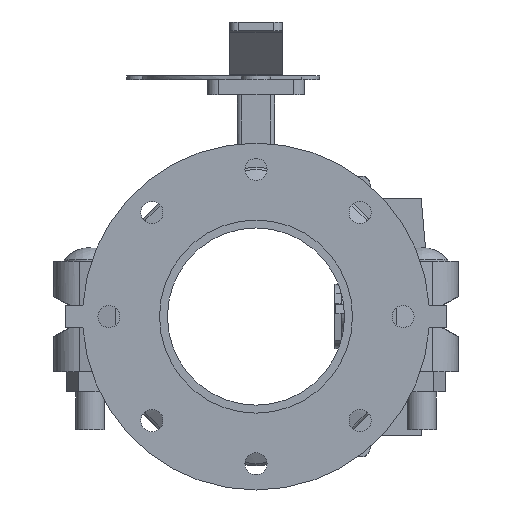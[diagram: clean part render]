
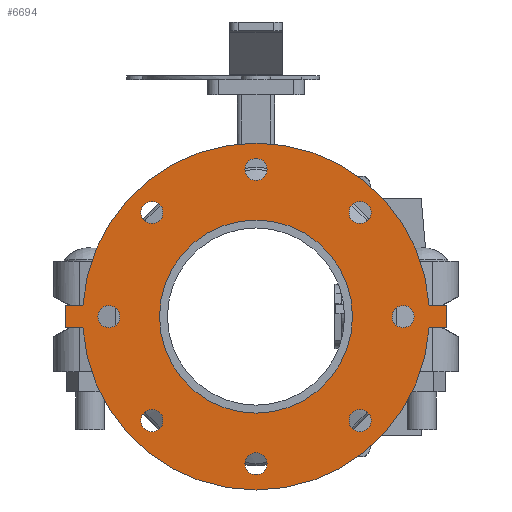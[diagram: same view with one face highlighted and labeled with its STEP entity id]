
A CAD part, front view. The second image highlights one B-rep face of the part: STEP entity #6694.
In plain terms, the highlighted planar face has unit normal (0, -1, 0) as drawn and (0, 0, -1) by its records, which use the part's own axes.
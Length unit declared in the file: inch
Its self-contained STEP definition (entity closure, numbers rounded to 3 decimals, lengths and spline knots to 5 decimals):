
#159=FACE_BOUND('',#834,.T.);
#160=FACE_BOUND('',#835,.T.);
#161=FACE_BOUND('',#836,.T.);
#162=FACE_BOUND('',#837,.T.);
#163=FACE_BOUND('',#838,.T.);
#164=FACE_BOUND('',#839,.T.);
#165=FACE_BOUND('',#840,.T.);
#166=FACE_BOUND('',#841,.T.);
#167=FACE_BOUND('',#842,.T.);
#244=PLANE('',#7259);
#462=FACE_OUTER_BOUND('',#833,.T.);
#833=EDGE_LOOP('',(#4350,#4351,#4352,#4353,#4354,#4355,#4356,#4357));
#834=EDGE_LOOP('',(#4358));
#835=EDGE_LOOP('',(#4359));
#836=EDGE_LOOP('',(#4360));
#837=EDGE_LOOP('',(#4361));
#838=EDGE_LOOP('',(#4362));
#839=EDGE_LOOP('',(#4363));
#840=EDGE_LOOP('',(#4364));
#841=EDGE_LOOP('',(#4365));
#842=EDGE_LOOP('',(#4366));
#1268=LINE('',#10157,#1783);
#1271=LINE('',#10163,#1786);
#1274=LINE('',#10168,#1789);
#1276=LINE('',#10173,#1791);
#1280=LINE('',#10180,#1795);
#1282=LINE('',#10183,#1797);
#1783=VECTOR('',#8085,0.3937);
#1786=VECTOR('',#8090,0.3937);
#1789=VECTOR('',#8095,0.3937);
#1791=VECTOR('',#8099,0.3937);
#1795=VECTOR('',#8105,0.3937);
#1797=VECTOR('',#8109,0.3937);
#2286=CIRCLE('',#7221,0.315);
#2288=CIRCLE('',#7224,0.315);
#2290=CIRCLE('',#7227,0.315);
#2292=CIRCLE('',#7230,0.315);
#2294=CIRCLE('',#7233,0.315);
#2296=CIRCLE('',#7236,0.315);
#2298=CIRCLE('',#7239,0.315);
#2300=CIRCLE('',#7242,0.315);
#2301=CIRCLE('',#7244,2.75);
#2303=CIRCLE('',#7247,4.94);
#2306=CIRCLE('',#7251,4.94);
#2669=VERTEX_POINT('',#10086);
#2671=VERTEX_POINT('',#10092);
#2673=VERTEX_POINT('',#10098);
#2675=VERTEX_POINT('',#10104);
#2677=VERTEX_POINT('',#10110);
#2679=VERTEX_POINT('',#10116);
#2681=VERTEX_POINT('',#10122);
#2683=VERTEX_POINT('',#10128);
#2684=VERTEX_POINT('',#10132);
#2686=VERTEX_POINT('',#10138);
#2688=VERTEX_POINT('',#10141);
#2690=VERTEX_POINT('',#10147);
#2693=VERTEX_POINT('',#10152);
#2694=VERTEX_POINT('',#10156);
#2696=VERTEX_POINT('',#10162);
#2698=VERTEX_POINT('',#10171);
#2699=VERTEX_POINT('',#10172);
#3313=EDGE_CURVE('',#2669,#2669,#2286,.T.);
#3316=EDGE_CURVE('',#2671,#2671,#2288,.T.);
#3319=EDGE_CURVE('',#2673,#2673,#2290,.T.);
#3322=EDGE_CURVE('',#2675,#2675,#2292,.T.);
#3325=EDGE_CURVE('',#2677,#2677,#2294,.T.);
#3328=EDGE_CURVE('',#2679,#2679,#2296,.T.);
#3331=EDGE_CURVE('',#2681,#2681,#2298,.T.);
#3334=EDGE_CURVE('',#2683,#2683,#2300,.T.);
#3335=EDGE_CURVE('',#2684,#2684,#2301,.T.);
#3339=EDGE_CURVE('',#2686,#2688,#2303,.T.);
#3345=EDGE_CURVE('',#2693,#2690,#2306,.T.);
#3346=EDGE_CURVE('',#2688,#2694,#1268,.T.);
#3349=EDGE_CURVE('',#2696,#2693,#1271,.T.);
#3352=EDGE_CURVE('',#2694,#2696,#1274,.T.);
#3354=EDGE_CURVE('',#2698,#2699,#1276,.T.);
#3358=EDGE_CURVE('',#2690,#2698,#1280,.T.);
#3360=EDGE_CURVE('',#2699,#2686,#1282,.T.);
#4350=ORIENTED_EDGE('',*,*,#3360,.F.);
#4351=ORIENTED_EDGE('',*,*,#3354,.F.);
#4352=ORIENTED_EDGE('',*,*,#3358,.F.);
#4353=ORIENTED_EDGE('',*,*,#3345,.F.);
#4354=ORIENTED_EDGE('',*,*,#3349,.F.);
#4355=ORIENTED_EDGE('',*,*,#3352,.F.);
#4356=ORIENTED_EDGE('',*,*,#3346,.F.);
#4357=ORIENTED_EDGE('',*,*,#3339,.F.);
#4358=ORIENTED_EDGE('',*,*,#3313,.T.);
#4359=ORIENTED_EDGE('',*,*,#3316,.T.);
#4360=ORIENTED_EDGE('',*,*,#3319,.T.);
#4361=ORIENTED_EDGE('',*,*,#3322,.T.);
#4362=ORIENTED_EDGE('',*,*,#3325,.T.);
#4363=ORIENTED_EDGE('',*,*,#3328,.T.);
#4364=ORIENTED_EDGE('',*,*,#3331,.T.);
#4365=ORIENTED_EDGE('',*,*,#3334,.T.);
#4366=ORIENTED_EDGE('',*,*,#3335,.T.);
#6694=ADVANCED_FACE('',(#462,#159,#160,#161,#162,#163,#164,#165,#166,#167),
#244,.F.);
#7221=AXIS2_PLACEMENT_3D('',#10088,#8009,#8010);
#7224=AXIS2_PLACEMENT_3D('',#10094,#8016,#8017);
#7227=AXIS2_PLACEMENT_3D('',#10100,#8023,#8024);
#7230=AXIS2_PLACEMENT_3D('',#10106,#8030,#8031);
#7233=AXIS2_PLACEMENT_3D('',#10112,#8037,#8038);
#7236=AXIS2_PLACEMENT_3D('',#10118,#8044,#8045);
#7239=AXIS2_PLACEMENT_3D('',#10124,#8051,#8052);
#7242=AXIS2_PLACEMENT_3D('',#10130,#8058,#8059);
#7244=AXIS2_PLACEMENT_3D('',#10133,#8062,#8063);
#7247=AXIS2_PLACEMENT_3D('',#10142,#8070,#8071);
#7251=AXIS2_PLACEMENT_3D('',#10154,#8081,#8082);
#7259=AXIS2_PLACEMENT_3D('',#10186,#8113,#8114);
#8009=DIRECTION('center_axis',(0.,0.,1.));
#8010=DIRECTION('ref_axis',(-0.707,-0.707,0.));
#8016=DIRECTION('center_axis',(0.,0.,1.));
#8017=DIRECTION('ref_axis',(-1.,0.,0.));
#8023=DIRECTION('center_axis',(0.,0.,1.));
#8024=DIRECTION('ref_axis',(-0.707,0.707,0.));
#8030=DIRECTION('center_axis',(0.,0.,1.));
#8031=DIRECTION('ref_axis',(0.,1.,0.));
#8037=DIRECTION('center_axis',(0.,0.,1.));
#8038=DIRECTION('ref_axis',(0.707,0.707,0.));
#8044=DIRECTION('center_axis',(0.,0.,1.));
#8045=DIRECTION('ref_axis',(1.,0.,0.));
#8051=DIRECTION('center_axis',(0.,0.,1.));
#8052=DIRECTION('ref_axis',(0.707,-0.707,0.));
#8058=DIRECTION('center_axis',(0.,0.,1.));
#8059=DIRECTION('ref_axis',(0.,-1.,0.));
#8062=DIRECTION('center_axis',(0.,0.,1.));
#8063=DIRECTION('ref_axis',(0.,-1.,0.));
#8070=DIRECTION('center_axis',(0.,0.,1.));
#8071=DIRECTION('ref_axis',(0.,1.,0.));
#8081=DIRECTION('center_axis',(0.,0.,1.));
#8082=DIRECTION('ref_axis',(0.,1.,0.));
#8085=DIRECTION('',(0.,-1.,0.));
#8090=DIRECTION('',(0.,1.,0.));
#8095=DIRECTION('',(1.,0.,0.));
#8099=DIRECTION('',(-1.,0.,0.));
#8105=DIRECTION('',(0.,1.,0.));
#8109=DIRECTION('',(0.,-1.,0.));
#8113=DIRECTION('center_axis',(0.,0.,1.));
#8114=DIRECTION('ref_axis',(0.,1.,0.));
#10086=CARTESIAN_POINT('',(-2.74004,3.18552,0.));
#10088=CARTESIAN_POINT('Origin',(-2.96278,2.96278,0.));
#10092=CARTESIAN_POINT('',(0.315,4.19,0.));
#10094=CARTESIAN_POINT('Origin',(0.,4.19,0.));
#10098=CARTESIAN_POINT('',(3.18552,2.74004,0.));
#10100=CARTESIAN_POINT('Origin',(2.96278,2.96278,0.));
#10104=CARTESIAN_POINT('',(4.19,-0.315,0.));
#10106=CARTESIAN_POINT('Origin',(4.19,0.,0.));
#10110=CARTESIAN_POINT('',(2.74004,-3.18552,0.));
#10112=CARTESIAN_POINT('Origin',(2.96278,-2.96278,0.));
#10116=CARTESIAN_POINT('',(-0.315,-4.19,0.));
#10118=CARTESIAN_POINT('Origin',(0.,-4.19,0.));
#10122=CARTESIAN_POINT('',(-3.18552,-2.74004,0.));
#10124=CARTESIAN_POINT('Origin',(-2.96278,-2.96278,0.));
#10128=CARTESIAN_POINT('',(-4.19,0.315,0.));
#10130=CARTESIAN_POINT('Origin',(-4.19,0.,0.));
#10132=CARTESIAN_POINT('',(0.,2.75,0.));
#10133=CARTESIAN_POINT('Origin',(0.,0.,0.));
#10138=CARTESIAN_POINT('',(-0.32,4.92962,0.));
#10141=CARTESIAN_POINT('',(-0.32,-4.92962,0.));
#10142=CARTESIAN_POINT('Origin',(0.,0.,0.));
#10147=CARTESIAN_POINT('',(0.32,4.92962,0.));
#10152=CARTESIAN_POINT('',(0.32,-4.92962,0.));
#10154=CARTESIAN_POINT('Origin',(0.,0.,0.));
#10156=CARTESIAN_POINT('',(-0.32,-5.44,0.));
#10157=CARTESIAN_POINT('',(-0.32,-4.92962,0.));
#10162=CARTESIAN_POINT('',(0.32,-5.44,0.));
#10163=CARTESIAN_POINT('',(0.32,-5.44,0.));
#10168=CARTESIAN_POINT('',(-0.32,-5.44,0.));
#10171=CARTESIAN_POINT('',(0.32,5.44,0.));
#10172=CARTESIAN_POINT('',(-0.32,5.44,0.));
#10173=CARTESIAN_POINT('',(0.32,5.44,0.));
#10180=CARTESIAN_POINT('',(0.32,4.92962,0.));
#10183=CARTESIAN_POINT('',(-0.32,5.44,0.));
#10186=CARTESIAN_POINT('Origin',(0.,5.20539,
0.));
